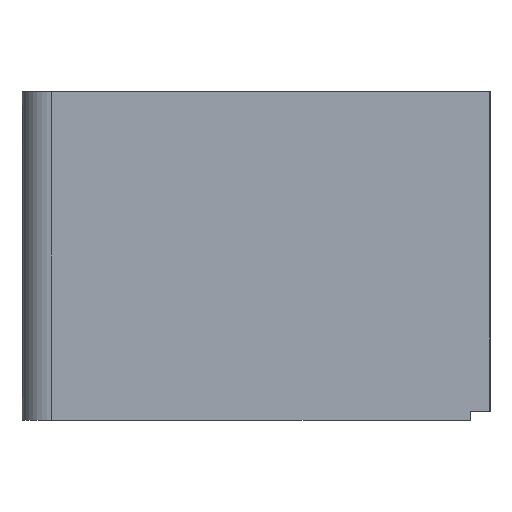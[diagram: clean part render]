
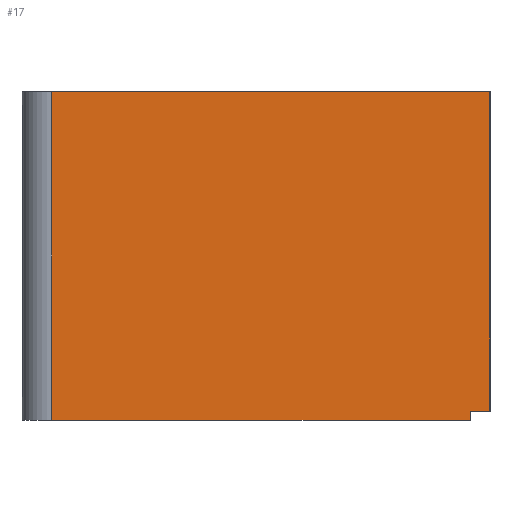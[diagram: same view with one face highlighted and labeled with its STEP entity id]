
A CAD part, left-side view. The second image highlights one B-rep face of the part: STEP entity #17.
In plain terms, the highlighted planar face has unit normal (-1, 0, 0).
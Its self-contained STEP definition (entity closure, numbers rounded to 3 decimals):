
#17 = ADVANCED_FACE('',(#18),#32,.F.);
#18 = FACE_BOUND('',#19,.F.);
#19 = EDGE_LOOP('',(#20,#55,#81,#107,#133,#161,#189));
#20 = ORIENTED_EDGE('',*,*,#21,.F.);
#21 = EDGE_CURVE('',#22,#24,#26,.T.);
#22 = VERTEX_POINT('',#23);
#23 = CARTESIAN_POINT('',(0.,190.,66.));
#24 = VERTEX_POINT('',#25);
#25 = CARTESIAN_POINT('',(0.,270.,66.));
#26 = SURFACE_CURVE('',#27,(#31,#43),.PCURVE_S1.);
#27 = LINE('',#28,#29);
#28 = CARTESIAN_POINT('',(0.,0.,66.));
#29 = VECTOR('',#30,1.);
#30 = DIRECTION('',(0.,1.,0.));
#31 = PCURVE('',#32,#37);
#32 = PLANE('',#33);
#33 = AXIS2_PLACEMENT_3D('',#34,#35,#36);
#34 = CARTESIAN_POINT('',(0.,0.,0.));
#35 = DIRECTION('',(1.,0.,0.));
#36 = DIRECTION('',(0.,0.,1.));
#37 = DEFINITIONAL_REPRESENTATION('',(#38),#42);
#38 = LINE('',#39,#40);
#39 = CARTESIAN_POINT('',(66.,0.));
#40 = VECTOR('',#41,1.);
#41 = DIRECTION('',(0.,-1.));
#42 = ( GEOMETRIC_REPRESENTATION_CONTEXT(2) 
PARAMETRIC_REPRESENTATION_CONTEXT() REPRESENTATION_CONTEXT('2D SPACE',''
  ) );
#43 = PCURVE('',#44,#49);
#44 = PLANE('',#45);
#45 = AXIS2_PLACEMENT_3D('',#46,#47,#48);
#46 = CARTESIAN_POINT('',(0.,0.,66.));
#47 = DIRECTION('',(0.,0.,1.));
#48 = DIRECTION('',(1.,0.,0.));
#49 = DEFINITIONAL_REPRESENTATION('',(#50),#54);
#50 = LINE('',#51,#52);
#51 = CARTESIAN_POINT('',(0.,0.));
#52 = VECTOR('',#53,1.);
#53 = DIRECTION('',(0.,1.));
#54 = ( GEOMETRIC_REPRESENTATION_CONTEXT(2) 
PARAMETRIC_REPRESENTATION_CONTEXT() REPRESENTATION_CONTEXT('2D SPACE',''
  ) );
#55 = ORIENTED_EDGE('',*,*,#56,.F.);
#56 = EDGE_CURVE('',#57,#22,#59,.T.);
#57 = VERTEX_POINT('',#58);
#58 = CARTESIAN_POINT('',(0.,190.,1.85));
#59 = SURFACE_CURVE('',#60,(#64,#70),.PCURVE_S1.);
#60 = LINE('',#61,#62);
#61 = CARTESIAN_POINT('',(0.,190.,0.));
#62 = VECTOR('',#63,1.);
#63 = DIRECTION('',(0.,0.,1.));
#64 = PCURVE('',#32,#65);
#65 = DEFINITIONAL_REPRESENTATION('',(#66),#69);
#66 = B_SPLINE_CURVE_WITH_KNOTS('',1,(#67,#68),.UNSPECIFIED.,.F.,.F.,(2,
    2),(0.,66.),.PIECEWISE_BEZIER_KNOTS.);
#67 = CARTESIAN_POINT('',(0.,-190.));
#68 = CARTESIAN_POINT('',(66.,-190.));
#69 = ( GEOMETRIC_REPRESENTATION_CONTEXT(2) 
PARAMETRIC_REPRESENTATION_CONTEXT() REPRESENTATION_CONTEXT('2D SPACE',''
  ) );
#70 = PCURVE('',#71,#76);
#71 = PLANE('',#72);
#72 = AXIS2_PLACEMENT_3D('',#73,#74,#75);
#73 = CARTESIAN_POINT('',(-1.,190.,0.));
#74 = DIRECTION('',(0.,1.,0.));
#75 = DIRECTION('',(0.,0.,1.));
#76 = DEFINITIONAL_REPRESENTATION('',(#77),#80);
#77 = B_SPLINE_CURVE_WITH_KNOTS('',1,(#78,#79),.UNSPECIFIED.,.F.,.F.,(2,
    2),(0.,66.),.PIECEWISE_BEZIER_KNOTS.);
#78 = CARTESIAN_POINT('',(0.,1.));
#79 = CARTESIAN_POINT('',(66.,1.));
#80 = ( GEOMETRIC_REPRESENTATION_CONTEXT(2) 
PARAMETRIC_REPRESENTATION_CONTEXT() REPRESENTATION_CONTEXT('2D SPACE',''
  ) );
#81 = ORIENTED_EDGE('',*,*,#82,.F.);
#82 = EDGE_CURVE('',#83,#57,#85,.T.);
#83 = VERTEX_POINT('',#84);
#84 = CARTESIAN_POINT('',(0.,194.,1.85));
#85 = SURFACE_CURVE('',#86,(#90,#96),.PCURVE_S1.);
#86 = LINE('',#87,#88);
#87 = CARTESIAN_POINT('',(0.,94.5,1.85));
#88 = VECTOR('',#89,1.);
#89 = DIRECTION('',(0.,-1.,0.));
#90 = PCURVE('',#32,#91);
#91 = DEFINITIONAL_REPRESENTATION('',(#92),#95);
#92 = B_SPLINE_CURVE_WITH_KNOTS('',1,(#93,#94),.UNSPECIFIED.,.F.,.F.,(2,
    2),(-99.5,-95.5),.PIECEWISE_BEZIER_KNOTS.);
#93 = CARTESIAN_POINT('',(1.85,-194.));
#94 = CARTESIAN_POINT('',(1.85,-190.));
#95 = ( GEOMETRIC_REPRESENTATION_CONTEXT(2) 
PARAMETRIC_REPRESENTATION_CONTEXT() REPRESENTATION_CONTEXT('2D SPACE',''
  ) );
#96 = PCURVE('',#97,#102);
#97 = PLANE('',#98);
#98 = AXIS2_PLACEMENT_3D('',#99,#100,#101);
#99 = CARTESIAN_POINT('',(-1.,189.,1.85));
#100 = DIRECTION('',(0.,0.,1.));
#101 = DIRECTION('',(1.,0.,0.));
#102 = DEFINITIONAL_REPRESENTATION('',(#103),#106);
#103 = B_SPLINE_CURVE_WITH_KNOTS('',1,(#104,#105),.UNSPECIFIED.,.F.,.F.,
  (2,2),(-99.5,-95.5),.PIECEWISE_BEZIER_KNOTS.);
#104 = CARTESIAN_POINT('',(1.,5.));
#105 = CARTESIAN_POINT('',(1.,1.));
#106 = ( GEOMETRIC_REPRESENTATION_CONTEXT(2) 
PARAMETRIC_REPRESENTATION_CONTEXT() REPRESENTATION_CONTEXT('2D SPACE',''
  ) );
#107 = ORIENTED_EDGE('',*,*,#108,.F.);
#108 = EDGE_CURVE('',#109,#83,#111,.T.);
#109 = VERTEX_POINT('',#110);
#110 = CARTESIAN_POINT('',(0.,194.,0.));
#111 = SURFACE_CURVE('',#112,(#116,#122),.PCURVE_S1.);
#112 = LINE('',#113,#114);
#113 = CARTESIAN_POINT('',(0.,194.,-0.5));
#114 = VECTOR('',#115,1.);
#115 = DIRECTION('',(0.,0.,1.));
#116 = PCURVE('',#32,#117);
#117 = DEFINITIONAL_REPRESENTATION('',(#118),#121);
#118 = B_SPLINE_CURVE_WITH_KNOTS('',1,(#119,#120),.UNSPECIFIED.,.F.,.F.,
  (2,2),(0.5,2.35),.PIECEWISE_BEZIER_KNOTS.);
#119 = CARTESIAN_POINT('',(0.,-194.));
#120 = CARTESIAN_POINT('',(1.85,-194.));
#121 = ( GEOMETRIC_REPRESENTATION_CONTEXT(2) 
PARAMETRIC_REPRESENTATION_CONTEXT() REPRESENTATION_CONTEXT('2D SPACE',''
  ) );
#122 = PCURVE('',#123,#128);
#123 = PLANE('',#124);
#124 = AXIS2_PLACEMENT_3D('',#125,#126,#127);
#125 = CARTESIAN_POINT('',(-1.,194.,-1.));
#126 = DIRECTION('',(0.,1.,0.));
#127 = DIRECTION('',(0.,0.,1.));
#128 = DEFINITIONAL_REPRESENTATION('',(#129),#132);
#129 = B_SPLINE_CURVE_WITH_KNOTS('',1,(#130,#131),.UNSPECIFIED.,.F.,.F.,
  (2,2),(0.5,2.35),.PIECEWISE_BEZIER_KNOTS.);
#130 = CARTESIAN_POINT('',(1.,1.));
#131 = CARTESIAN_POINT('',(2.85,1.));
#132 = ( GEOMETRIC_REPRESENTATION_CONTEXT(2) 
PARAMETRIC_REPRESENTATION_CONTEXT() REPRESENTATION_CONTEXT('2D SPACE',''
  ) );
#133 = ORIENTED_EDGE('',*,*,#134,.T.);
#134 = EDGE_CURVE('',#109,#135,#137,.T.);
#135 = VERTEX_POINT('',#136);
#136 = CARTESIAN_POINT('',(0.,278.,0.));
#137 = SURFACE_CURVE('',#138,(#142,#149),.PCURVE_S1.);
#138 = LINE('',#139,#140);
#139 = CARTESIAN_POINT('',(0.,0.,0.));
#140 = VECTOR('',#141,1.);
#141 = DIRECTION('',(0.,1.,0.));
#142 = PCURVE('',#32,#143);
#143 = DEFINITIONAL_REPRESENTATION('',(#144),#148);
#144 = LINE('',#145,#146);
#145 = CARTESIAN_POINT('',(0.,0.));
#146 = VECTOR('',#147,1.);
#147 = DIRECTION('',(0.,-1.));
#148 = ( GEOMETRIC_REPRESENTATION_CONTEXT(2) 
PARAMETRIC_REPRESENTATION_CONTEXT() REPRESENTATION_CONTEXT('2D SPACE',''
  ) );
#149 = PCURVE('',#150,#155);
#150 = PLANE('',#151);
#151 = AXIS2_PLACEMENT_3D('',#152,#153,#154);
#152 = CARTESIAN_POINT('',(0.,0.,0.));
#153 = DIRECTION('',(0.,0.,1.));
#154 = DIRECTION('',(1.,0.,0.));
#155 = DEFINITIONAL_REPRESENTATION('',(#156),#160);
#156 = LINE('',#157,#158);
#157 = CARTESIAN_POINT('',(0.,0.));
#158 = VECTOR('',#159,1.);
#159 = DIRECTION('',(0.,1.));
#160 = ( GEOMETRIC_REPRESENTATION_CONTEXT(2) 
PARAMETRIC_REPRESENTATION_CONTEXT() REPRESENTATION_CONTEXT('2D SPACE',''
  ) );
#161 = ORIENTED_EDGE('',*,*,#162,.T.);
#162 = EDGE_CURVE('',#135,#163,#165,.T.);
#163 = VERTEX_POINT('',#164);
#164 = CARTESIAN_POINT('',(0.,278.,66.));
#165 = SURFACE_CURVE('',#166,(#170,#177),.PCURVE_S1.);
#166 = LINE('',#167,#168);
#167 = CARTESIAN_POINT('',(0.,278.,0.));
#168 = VECTOR('',#169,1.);
#169 = DIRECTION('',(0.,0.,1.));
#170 = PCURVE('',#32,#171);
#171 = DEFINITIONAL_REPRESENTATION('',(#172),#176);
#172 = LINE('',#173,#174);
#173 = CARTESIAN_POINT('',(0.,-278.));
#174 = VECTOR('',#175,1.);
#175 = DIRECTION('',(1.,0.));
#176 = ( GEOMETRIC_REPRESENTATION_CONTEXT(2) 
PARAMETRIC_REPRESENTATION_CONTEXT() REPRESENTATION_CONTEXT('2D SPACE',''
  ) );
#177 = PCURVE('',#178,#183);
#178 = CYLINDRICAL_SURFACE('',#179,6.);
#179 = AXIS2_PLACEMENT_3D('',#180,#181,#182);
#180 = CARTESIAN_POINT('',(6.,278.,0.));
#181 = DIRECTION('',(0.,0.,1.));
#182 = DIRECTION('',(-1.,-0.,0.));
#183 = DEFINITIONAL_REPRESENTATION('',(#184),#188);
#184 = LINE('',#185,#186);
#185 = CARTESIAN_POINT('',(-0.,0.));
#186 = VECTOR('',#187,1.);
#187 = DIRECTION('',(-0.,1.));
#188 = ( GEOMETRIC_REPRESENTATION_CONTEXT(2) 
PARAMETRIC_REPRESENTATION_CONTEXT() REPRESENTATION_CONTEXT('2D SPACE',''
  ) );
#189 = ORIENTED_EDGE('',*,*,#190,.F.);
#190 = EDGE_CURVE('',#24,#163,#191,.T.);
#191 = SURFACE_CURVE('',#192,(#196,#203),.PCURVE_S1.);
#192 = LINE('',#193,#194);
#193 = CARTESIAN_POINT('',(0.,0.,66.));
#194 = VECTOR('',#195,1.);
#195 = DIRECTION('',(0.,1.,0.));
#196 = PCURVE('',#32,#197);
#197 = DEFINITIONAL_REPRESENTATION('',(#198),#202);
#198 = LINE('',#199,#200);
#199 = CARTESIAN_POINT('',(66.,0.));
#200 = VECTOR('',#201,1.);
#201 = DIRECTION('',(0.,-1.));
#202 = ( GEOMETRIC_REPRESENTATION_CONTEXT(2) 
PARAMETRIC_REPRESENTATION_CONTEXT() REPRESENTATION_CONTEXT('2D SPACE',''
  ) );
#203 = PCURVE('',#44,#204);
#204 = DEFINITIONAL_REPRESENTATION('',(#205),#209);
#205 = LINE('',#206,#207);
#206 = CARTESIAN_POINT('',(0.,0.));
#207 = VECTOR('',#208,1.);
#208 = DIRECTION('',(0.,1.));
#209 = ( GEOMETRIC_REPRESENTATION_CONTEXT(2) 
PARAMETRIC_REPRESENTATION_CONTEXT() REPRESENTATION_CONTEXT('2D SPACE',''
  ) );
